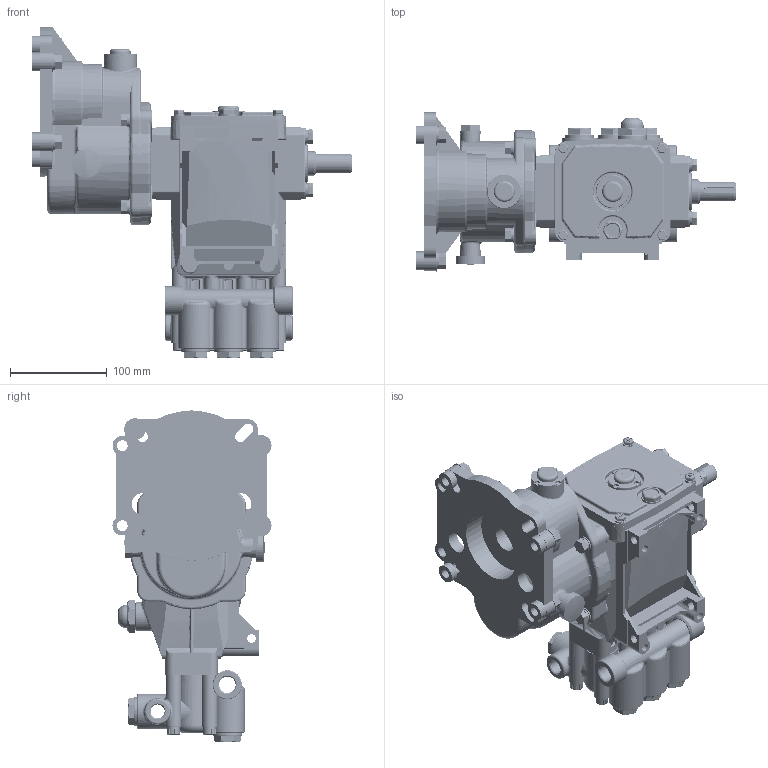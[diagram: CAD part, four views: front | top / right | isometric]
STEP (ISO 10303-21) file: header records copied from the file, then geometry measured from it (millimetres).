
FILE_DESCRIPTION (( 'STEP AP214' ), '1' );
FILE_NAME ('5CP 3120 G1.STEP', '2012-11-16T12:52:42', ( '' ), ( '' ), 'SwSTEP 2.0', 'SolidWorks 2012', '' );
FILE_SCHEMA (( 'AUTOMOTIVE_DESIGN' ));
Length unit declared in the file: millimetre
Products named in the file (1): 5CP 3120 G1
Bounding box: 329.67 x 164.13 x 342.63 mm (x, y, z)
Volume: 2792285.3 mm3; surface area: 552809.3 mm2
Topology: 1 solids, 39 shells, 7051 faces, 19149 edges, 12365 vertices
Faces by surface type: plane 4171, cylinder 1461, bspline 691, torus 511, cone 187, sphere 30
Entity records: 310992 total; most frequent: CARTESIAN_POINT 94972, ORIENTED_EDGE 38170, DIRECTION 32791, EDGE_CURVE 19085, VERTEX_POINT 12354, AXIS2_PLACEMENT_3D 11547, VECTOR 9697, LINE 9697
